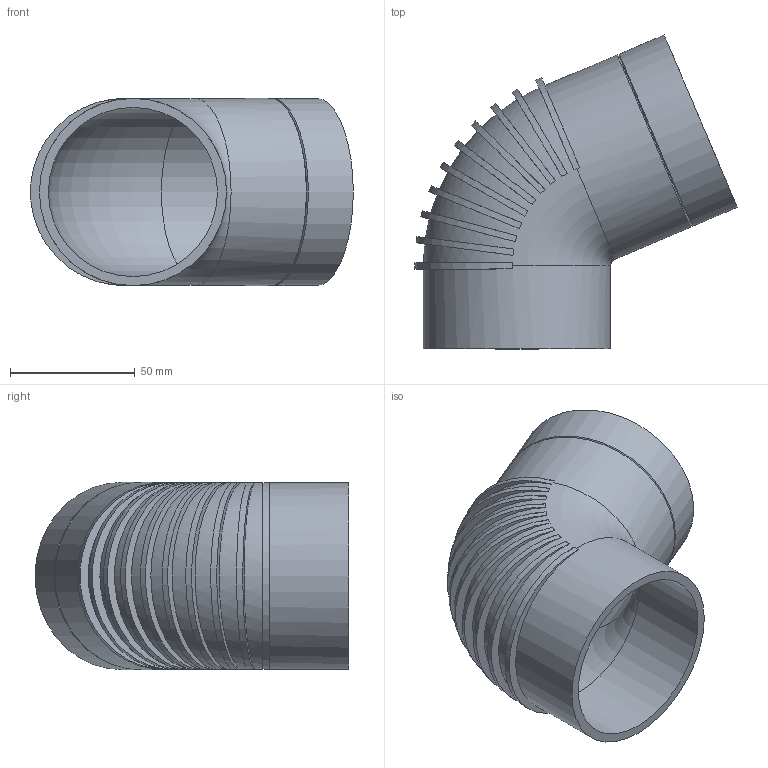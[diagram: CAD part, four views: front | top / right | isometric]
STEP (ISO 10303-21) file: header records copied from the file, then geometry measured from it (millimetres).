
FILE_DESCRIPTION(/* description */ (''),/* implementation_level */ '2;1');
FILE_NAME(/* name */ 'Z:\Geberit\Export\NewStep\Bogen_Ipart\stp\307670.stp',/* time_stamp */ '2014-04-03T16:43:06+02:00',/* author */ ('Marco'),/* organization */ (''),/* preprocessor_version */ 'ST-DEVELOPER v15.2',/* originating_system */ 'Autodesk Inventor 2014',/* authorisation */ '');
FILE_SCHEMA (('AUTOMOTIVE_DESIGN { 1 0 10303 214 3 1 1 }'));
Length unit declared in the file: millimetre
Products named in the file (1): 307670
Bounding box: 129.26 x 125.78 x 75 mm (x, y, z)
Volume: 114742.3 mm3; surface area: 67410.4 mm2
Topology: 1 solids, 1 shells, 41 faces, 114 edges, 75 vertices
Faces by surface type: plane 22, cylinder 15, cone 2, torus 2
Full cylindrical faces by diameter (mm): 67.8 x2, 75 x3
Entity records: 1834 total; most frequent: CARTESIAN_POINT 890, ORIENTED_EDGE 186, DIRECTION 154, EDGE_CURVE 93, AXIS2_PLACEMENT_3D 75, VERTEX_POINT 71, EDGE_LOOP 60, B_SPLINE_CURVE_WITH_KNOTS 56
